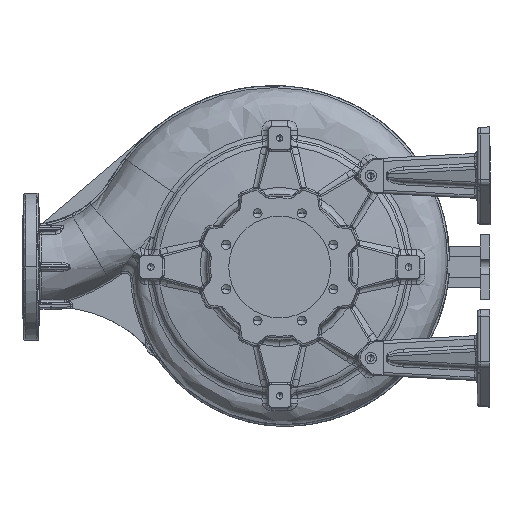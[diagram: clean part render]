
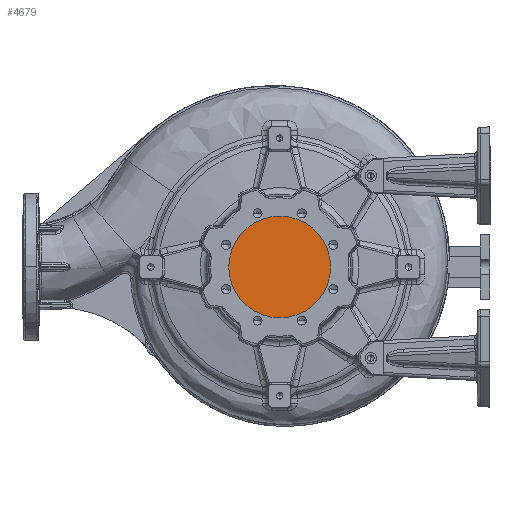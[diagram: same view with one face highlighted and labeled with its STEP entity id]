
A CAD part, left-side view. The second image highlights one B-rep face of the part: STEP entity #4679.
In plain terms, the highlighted planar face has unit normal (-1, 0, 0).
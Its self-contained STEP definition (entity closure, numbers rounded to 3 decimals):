
#3617 = ORIENTED_EDGE ( 'NONE', *, *, #45159, .F. ) ;
#4679 = ADVANCED_FACE ( 'NONE', ( #29258 ), #88005, .T. ) ;
#17046 = VERTEX_POINT ( 'NONE', #81755 ) ;
#20334 = EDGE_LOOP ( 'NONE', ( #3617, #81123 ) ) ;
#29258 = FACE_OUTER_BOUND ( 'NONE', #20334, .T. ) ;
#45159 = EDGE_CURVE ( 'NONE', #17046, #106703, #120884, .T. ) ;
#55944 = DIRECTION ( 'NONE',  ( 1., 0., 0. ) ) ;
#61257 = AXIS2_PLACEMENT_3D ( 'NONE', #75631, #164885, #88516 ) ;
#64504 = AXIS2_PLACEMENT_3D ( 'NONE', #75677, #164928, #88564 ) ;
#75631 = CARTESIAN_POINT ( 'NONE',  ( -539.5, 0., 0. ) ) ;
#75677 = CARTESIAN_POINT ( 'NONE',  ( -539.5, 0., 0. ) ) ;
#81123 = ORIENTED_EDGE ( 'NONE', *, *, #132814, .F. ) ;
#81755 = CARTESIAN_POINT ( 'NONE',  ( -539.5, 0., 79. ) ) ;
#88005 = PLANE ( 'NONE',  #64504 ) ;
#88516 = DIRECTION ( 'NONE',  ( 0., 1., 0. ) ) ;
#88564 = DIRECTION ( 'NONE',  ( 0., 1., 0. ) ) ;
#96421 = CARTESIAN_POINT ( 'NONE',  ( -539.5, 0., -79. ) ) ;
#106703 = VERTEX_POINT ( 'NONE', #96421 ) ;
#120884 = CIRCLE ( 'NONE', #61257, 79. ) ;
#122173 = CIRCLE ( 'NONE', #152114, 79. ) ;
#132377 = CARTESIAN_POINT ( 'NONE',  ( -539.5, 0., 0. ) ) ;
#132814 = EDGE_CURVE ( 'NONE', #106703, #17046, #122173, .T. ) ;
#145231 = DIRECTION ( 'NONE',  ( 0., 1., 0. ) ) ;
#152114 = AXIS2_PLACEMENT_3D ( 'NONE', #132377, #55944, #145231 ) ;
#164885 = DIRECTION ( 'NONE',  ( 1., 0., 0. ) ) ;
#164928 = DIRECTION ( 'NONE',  ( -1., 0., 0. ) ) ;
